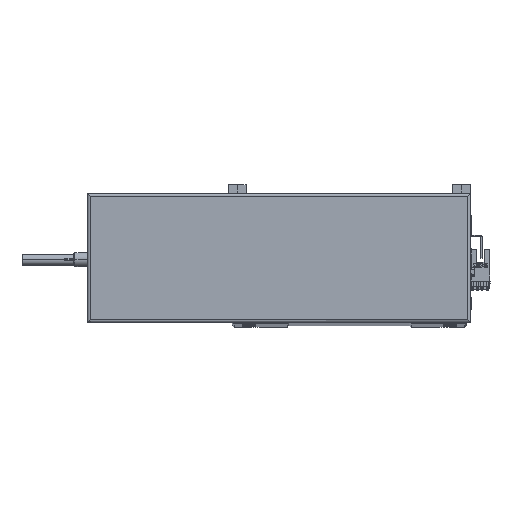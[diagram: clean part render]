
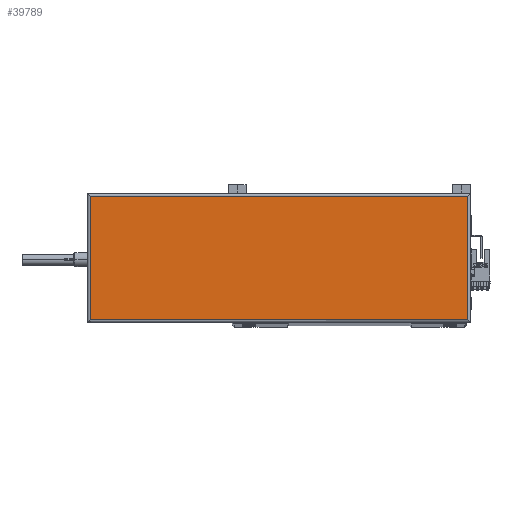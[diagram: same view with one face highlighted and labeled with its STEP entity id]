
A CAD part, top view. The second image highlights one B-rep face of the part: STEP entity #39789.
In plain terms, the highlighted planar face has unit normal (0, 0, 1).
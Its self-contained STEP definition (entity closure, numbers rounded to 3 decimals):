
#922 = AXIS2_PLACEMENT_3D ( 'NONE', #19905, #48078, #11935 ) ;
#1814 = ORIENTED_EDGE ( 'NONE', *, *, #5049, .T. ) ;
#2040 = VERTEX_POINT ( 'NONE', #31673 ) ;
#2404 = CARTESIAN_POINT ( 'NONE',  ( 267., 2., 44.8 ) ) ;
#3480 = PLANE ( 'NONE',  #922 ) ;
#3541 = CARTESIAN_POINT ( 'NONE',  ( 0., 88., 44.8 ) ) ;
#5049 = EDGE_CURVE ( 'NONE', #2040, #34902, #31658, .T. ) ;
#5457 = VECTOR ( 'NONE', #21691, 1000. ) ;
#6699 = VECTOR ( 'NONE', #22157, 1000. ) ;
#9441 = ORIENTED_EDGE ( 'NONE', *, *, #29664, .T. ) ;
#10279 = ORIENTED_EDGE ( 'NONE', *, *, #44254, .T. ) ;
#11935 = DIRECTION ( 'NONE',  ( 1., 0., 0. ) ) ;
#16732 = CARTESIAN_POINT ( 'NONE',  ( 265., 2., 44.8 ) ) ;
#17486 = LINE ( 'NONE', #26113, #6699 ) ;
#17912 = VERTEX_POINT ( 'NONE', #31831 ) ;
#18401 = EDGE_CURVE ( 'NONE', #34902, #17912, #17486, .T. ) ;
#19905 = CARTESIAN_POINT ( 'NONE',  ( 133.5, 45., 44.8 ) ) ;
#21691 = DIRECTION ( 'NONE',  ( 0., 1., 0. ) ) ;
#22157 = DIRECTION ( 'NONE',  ( 0., -1., 0. ) ) ;
#26113 = CARTESIAN_POINT ( 'NONE',  ( 2., 0., 44.8 ) ) ;
#27088 = LINE ( 'NONE', #49111, #5457 ) ;
#27975 = ORIENTED_EDGE ( 'NONE', *, *, #18401, .T. ) ;
#29230 = CARTESIAN_POINT ( 'NONE',  ( 2., 88., 44.8 ) ) ;
#29664 = EDGE_CURVE ( 'NONE', #17912, #33186, #30817, .T. ) ;
#30817 = LINE ( 'NONE', #2404, #51003 ) ;
#31616 = DIRECTION ( 'NONE',  ( -1., 0., 0. ) ) ;
#31658 = LINE ( 'NONE', #3541, #49279 ) ;
#31673 = CARTESIAN_POINT ( 'NONE',  ( 265., 88., 44.8 ) ) ;
#31831 = CARTESIAN_POINT ( 'NONE',  ( 2., 2., 44.8 ) ) ;
#33186 = VERTEX_POINT ( 'NONE', #16732 ) ;
#34902 = VERTEX_POINT ( 'NONE', #29230 ) ;
#39395 = EDGE_LOOP ( 'NONE', ( #10279, #1814, #27975, #9441 ) ) ;
#39789 = ADVANCED_FACE ( 'NONE', ( #41629 ), #3480, .T. ) ;
#41629 = FACE_OUTER_BOUND ( 'NONE', #39395, .T. ) ;
#42475 = DIRECTION ( 'NONE',  ( 1., 0., 0. ) ) ;
#44254 = EDGE_CURVE ( 'NONE', #33186, #2040, #27088, .T. ) ;
#48078 = DIRECTION ( 'NONE',  ( 0., 0., 1. ) ) ;
#49111 = CARTESIAN_POINT ( 'NONE',  ( 265., 90., 44.8 ) ) ;
#49279 = VECTOR ( 'NONE', #31616, 1000. ) ;
#51003 = VECTOR ( 'NONE', #42475, 1000. ) ;
